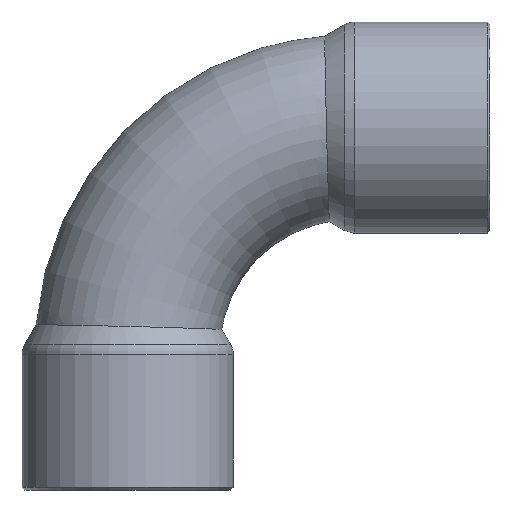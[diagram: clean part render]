
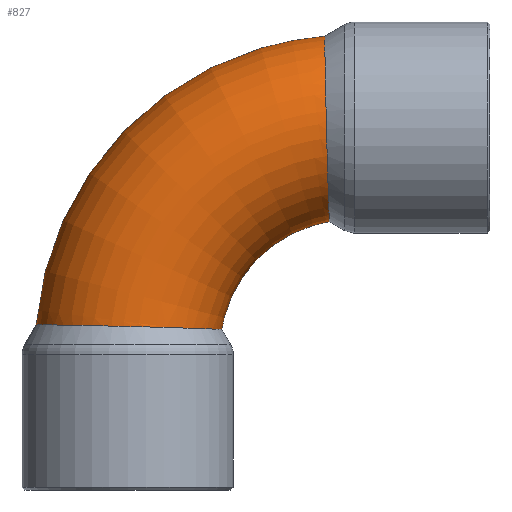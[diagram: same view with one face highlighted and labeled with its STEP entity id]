
A CAD part, left-side view. The second image highlights one B-rep face of the part: STEP entity #827.
In plain terms, the highlighted toroidal (fillet/blend) face has major radius 15.3 mm and minor radius 6.35 mm.
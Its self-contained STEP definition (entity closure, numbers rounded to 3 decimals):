
#444=CARTESIAN_POINT('',(0.,1.762,21.578));
#445=VERTEX_POINT('',#444);
#446=CARTESIAN_POINT('',(0.,1.762,21.578));
#447=CARTESIAN_POINT('',(0.59,1.762,21.578));
#448=CARTESIAN_POINT('',(1.178,1.761,21.496));
#449=CARTESIAN_POINT('',(2.3,1.756,21.174));
#450=CARTESIAN_POINT('',(2.83,1.752,20.94));
#451=CARTESIAN_POINT('',(4.038,1.739,20.198));
#452=CARTESIAN_POINT('',(4.659,1.729,19.619));
#453=CARTESIAN_POINT('',(5.642,1.703,18.253));
#454=CARTESIAN_POINT('',(5.993,1.688,17.479));
#455=CARTESIAN_POINT('',(6.375,1.652,15.837));
#456=CARTESIAN_POINT('',(6.401,1.632,14.985));
#457=CARTESIAN_POINT('',(6.122,1.589,13.319));
#458=CARTESIAN_POINT('',(5.817,1.566,12.52));
#459=CARTESIAN_POINT('',(4.942,1.523,11.131));
#460=CARTESIAN_POINT('',(4.396,1.503,10.543));
#461=CARTESIAN_POINT('',(3.078,1.467,9.571));
#462=CARTESIAN_POINT('',(2.308,1.452,9.211));
#463=CARTESIAN_POINT('',(1.061,1.44,8.908));
#464=CARTESIAN_POINT('',(0.622,1.437,8.849));
#465=CARTESIAN_POINT('',(-0.226,1.436,8.825));
#466=CARTESIAN_POINT('',(-0.633,1.438,8.853));
#467=CARTESIAN_POINT('',(-1.712,1.445,9.032));
#468=CARTESIAN_POINT('',(-2.367,1.454,9.254));
#469=CARTESIAN_POINT('',(-3.716,1.482,9.973));
#470=CARTESIAN_POINT('',(-4.372,1.502,10.512));
#471=CARTESIAN_POINT('',(-5.416,1.544,11.788));
#472=CARTESIAN_POINT('',(-5.804,1.566,12.504));
#473=CARTESIAN_POINT('',(-6.288,1.608,14.024));
#474=CARTESIAN_POINT('',(-6.386,1.628,14.812));
#475=CARTESIAN_POINT('',(-6.291,1.664,16.383));
#476=CARTESIAN_POINT('',(-6.099,1.681,17.152));
#477=CARTESIAN_POINT('',(-5.441,1.71,18.59));
#478=CARTESIAN_POINT('',(-4.978,1.722,19.245));
#479=CARTESIAN_POINT('',(-3.825,1.742,20.358));
#480=CARTESIAN_POINT('',(-3.143,1.749,20.803));
#481=CARTESIAN_POINT('',(-1.635,1.76,21.418));
#482=CARTESIAN_POINT('',(-0.821,1.762,21.578));
#483=CARTESIAN_POINT('',(0.0,1.762,21.578));
#484=B_SPLINE_CURVE_WITH_KNOTS('',3,(#446,#447,#448,#449,#450,#451,#452,#453,#454,#455,#456,#457,#458,#459,#460,#461,#462,#463,#464,#465,#466,#467,#468,#469,#470,#471,#472,#473,#474,#475,#476,#477,#478,#479,#480,#481,#482,#483),.UNSPECIFIED.,.T.,.U.,(4,2,2,2,2,2,2,2,2,2,2,2,2,2,2,2,2,2,4),(-4.008,-3.831,-3.658,-3.406,-3.153,-2.9,-2.646,-2.407,-2.155,-2.022,-1.9,-1.694,-1.442,-1.199,-0.963,-0.727,-0.489,-0.246,0.0),.UNSPECIFIED.);
#485=EDGE_CURVE('',#445,#445,#484,.T.);
#686=CARTESIAN_POINT('',(0.,21.578,1.762));
#687=VERTEX_POINT('',#686);
#688=CARTESIAN_POINT('',(0.,21.578,1.762));
#689=CARTESIAN_POINT('',(-0.59,21.578,1.762));
#690=CARTESIAN_POINT('',(-1.178,21.496,1.761));
#691=CARTESIAN_POINT('',(-2.3,21.174,1.756));
#692=CARTESIAN_POINT('',(-2.83,20.94,1.752));
#693=CARTESIAN_POINT('',(-4.038,20.198,1.739));
#694=CARTESIAN_POINT('',(-4.659,19.619,1.729));
#695=CARTESIAN_POINT('',(-5.642,18.253,1.703));
#696=CARTESIAN_POINT('',(-5.993,17.479,1.688));
#697=CARTESIAN_POINT('',(-6.375,15.837,1.652));
#698=CARTESIAN_POINT('',(-6.401,14.985,1.632));
#699=CARTESIAN_POINT('',(-6.122,13.319,1.589));
#700=CARTESIAN_POINT('',(-5.817,12.52,1.566));
#701=CARTESIAN_POINT('',(-4.942,11.131,1.523));
#702=CARTESIAN_POINT('',(-4.396,10.543,1.503));
#703=CARTESIAN_POINT('',(-3.078,9.571,1.467));
#704=CARTESIAN_POINT('',(-2.308,9.211,1.452));
#705=CARTESIAN_POINT('',(-1.061,8.908,1.44));
#706=CARTESIAN_POINT('',(-0.622,8.849,1.437));
#707=CARTESIAN_POINT('',(0.226,8.825,1.436));
#708=CARTESIAN_POINT('',(0.633,8.853,1.438));
#709=CARTESIAN_POINT('',(1.712,9.032,1.445));
#710=CARTESIAN_POINT('',(2.367,9.254,1.454));
#711=CARTESIAN_POINT('',(3.716,9.973,1.482));
#712=CARTESIAN_POINT('',(4.372,10.512,1.502));
#713=CARTESIAN_POINT('',(5.416,11.788,1.544));
#714=CARTESIAN_POINT('',(5.804,12.504,1.566));
#715=CARTESIAN_POINT('',(6.288,14.024,1.608));
#716=CARTESIAN_POINT('',(6.386,14.812,1.628));
#717=CARTESIAN_POINT('',(6.291,16.383,1.664));
#718=CARTESIAN_POINT('',(6.099,17.152,1.681));
#719=CARTESIAN_POINT('',(5.441,18.59,1.71));
#720=CARTESIAN_POINT('',(4.978,19.245,1.722));
#721=CARTESIAN_POINT('',(3.825,20.358,1.742));
#722=CARTESIAN_POINT('',(3.143,20.803,1.749));
#723=CARTESIAN_POINT('',(1.635,21.418,1.76));
#724=CARTESIAN_POINT('',(0.821,21.578,1.762));
#725=CARTESIAN_POINT('',(0.,21.578,1.762));
#726=B_SPLINE_CURVE_WITH_KNOTS('',3,(#688,#689,#690,#691,#692,#693,#694,#695,#696,#697,#698,#699,#700,#701,#702,#703,#704,#705,#706,#707,#708,#709,#710,#711,#712,#713,#714,#715,#716,#717,#718,#719,#720,#721,#722,#723,#724,#725),.UNSPECIFIED.,.T.,.U.,(4,2,2,2,2,2,2,2,2,2,2,2,2,2,2,2,2,2,4),(-4.008,-3.831,-3.658,-3.406,-3.153,-2.9,-2.646,-2.407,-2.155,-2.022,-1.9,-1.694,-1.442,-1.199,-0.963,-0.727,-0.489,-0.246,0.0),.UNSPECIFIED.);
#727=EDGE_CURVE('',#687,#687,#726,.T.);
#816=CARTESIAN_POINT('',(0.0,0.0,0.0));
#817=DIRECTION('',(1.0,0.0,0.0));
#818=DIRECTION('',(0.0,0.0,-1.0));
#819=AXIS2_PLACEMENT_3D('',#816,#817,#818);
#820=TOROIDAL_SURFACE('',#819,15.3,6.35);
#821=ORIENTED_EDGE('',*,*,#485,.T.);
#822=EDGE_LOOP('',(#821));
#823=FACE_OUTER_BOUND('',#822,.T.);
#824=ORIENTED_EDGE('',*,*,#727,.T.);
#825=EDGE_LOOP('',(#824));
#826=FACE_BOUND('',#825,.T.);
#827=ADVANCED_FACE('',(#823,#826),#820,.T.);
